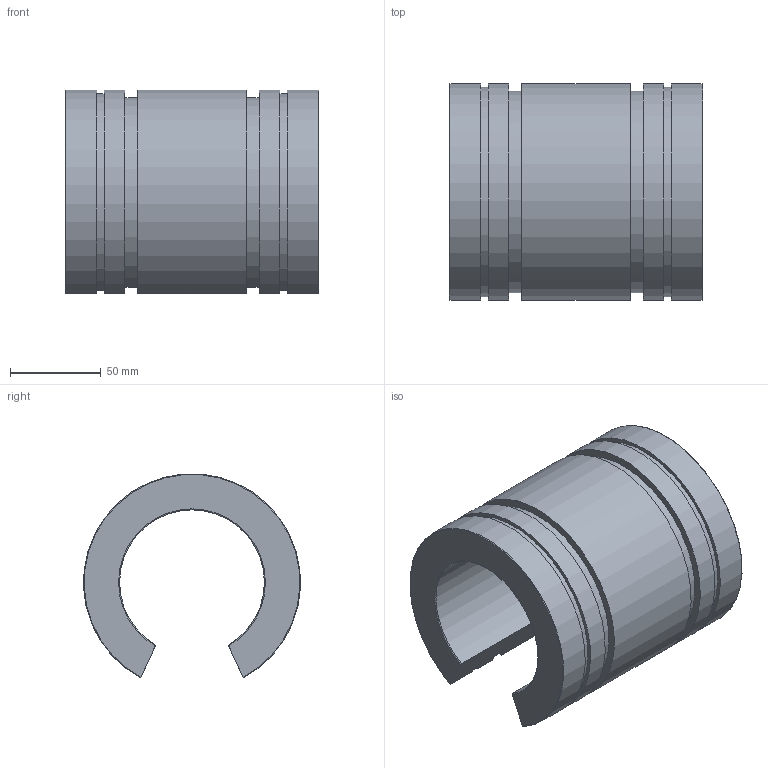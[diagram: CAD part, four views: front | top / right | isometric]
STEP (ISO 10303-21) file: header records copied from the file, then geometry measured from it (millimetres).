
FILE_DESCRIPTION(('STEP AP203'),'1');
FILE_NAME('//192.168.1.1/share/s-4 技術開発/s-4-4_CAD/s-4-4-3_見直し済み/PBC LINEAR修正済み/FJN/FJN_TOP/FJN80.step','2022-03-24T07:41:42',(' '),(' '),'Spatial InterOp 3D',' ',' ');
FILE_SCHEMA(('CONFIG_CONTROL_DESIGN'));
Length unit declared in the file: millimetre
Products named in the file (1): 1
Bounding box: 140 x 119.84 x 112.59 mm (x, y, z)
Volume: 714607.4 mm3; surface area: 96752.7 mm2
Topology: 1 solids, 1 shells, 26 faces, 72 edges, 48 vertices
Faces by surface type: plane 12, cylinder 10, torus 4
Entity records: 908 total; most frequent: CARTESIAN_POINT 187, ORIENTED_EDGE 144, DIRECTION 142, EDGE_CURVE 72, AXIS2_PLACEMENT_3D 51, VERTEX_POINT 48, LINE 40, VECTOR 40
